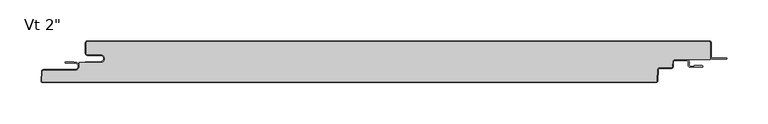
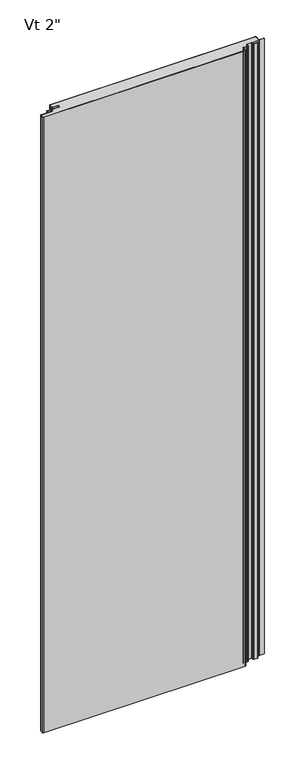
"""IFC4 building model written with IfcOpenShell, lengths in millimetres: plate geometry."""

from ifc_helpers import new_model, si_unit, point, frame, frame_2d, origin, origin_with_axes, place, context, project, spatial, polyline, circle_curve, ellipse_curve, trimmed, segment, composite_curve, outline, extrude, source, transform, mapped, element, save
from ifc_brep_helpers import plane_surface, cylinder_surface, revolved_surface, extruded_surface, advanced_brep


def plate_176f2685(model_context):
    return source(origin(), model_context, "Body", "SolidModel", [
        extrude(outline(composite_curve([segment(trimmed(circle_curve(frame_2d((335.9683457, -25.4)), 2.5875), [point((335.9683457, -22.8125))], [point((333.3843918, -25.2645807))], True, "CARTESIAN"), True, "CONTINUOUS"), segment(polyline([(333.3843918, -25.2645807), (333.0823155, -31.028539)]), True, "CONTINUOUS"), segment(trimmed(circle_curve(frame_2d((331.7029585, -30.95625)), 1.38125), [point((333.0823155, -31.028539))], [point((331.7029585, -32.3375))], False, "CARTESIAN"), True, "CONTINUOUS"), segment(polyline([(331.7029585, -32.3375), (317.5323847, -32.3375)]), True, "CONTINUOUS"), segment(trimmed(circle_curve(frame_2d((317.5323847, -34.925)), 2.5875), [point((317.5323847, -32.3375))], [point((314.9484307, -34.7895807))], True, "CARTESIAN"), True, "CONTINUOUS"), segment(polyline([(314.9484307, -34.7895807), (314.2303677, -48.491039)]), True, "CONTINUOUS"), segment(trimmed(circle_curve(frame_2d((312.8510107, -48.41875)), 1.38125), [point((314.2303677, -48.491039))], [point((312.8510107, -49.8))], False, "CARTESIAN"), True, "CONTINUOUS"), segment(polyline([(312.8510107, -49.8), (-431.6656861, -49.8)]), True, "CONTINUOUS"), segment(trimmed(circle_curve(frame_2d((-431.6656861, -48.41875)), 1.38125), [point((-431.6656861, -49.8))], [point((-433.0450431, -48.346461))], False, "CARTESIAN"), True, "CONTINUOUS"), segment(polyline([(-433.0450431, -48.346461), (-432.4626617, -37.233961)]), True, "CONTINUOUS"), segment(trimmed(circle_curve(frame_2d((-431.0833046, -37.30625)), 1.38125), [point((-432.4626617, -37.233961))], [point((-431.0833046, -35.925))], False, "CARTESIAN"), True, "CONTINUOUS"), segment(polyline([(-431.0833046, -35.925), (-392.9, -35.925)]), True, "CONTINUOUS"), segment(trimmed(circle_curve(frame_2d((-392.9, -30.95625)), 4.96875), [point((-392.9, -35.925))], [point((-387.93125, -30.95625))], True, "CARTESIAN"), True, "CONTINUOUS"), segment(polyline([(-387.93125, -30.95625), (-387.93125, -26.4), (-361.94375, -26.4)]), True, "CONTINUOUS"), segment(trimmed(circle_curve(frame_2d((-361.94375, -21.43125)), 4.96875), [point((-361.94375, -26.4))], [point((-361.94375, -16.4625))], True, "CARTESIAN"), True, "CONTINUOUS"), segment(polyline([(-361.94375, -16.4625), (-377.81875, -16.4625)]), True, "CONTINUOUS"), segment(trimmed(circle_curve(frame_2d((-377.81875, -15.08125)), 1.38125), [point((-377.81875, -16.4625))], [point((-379.2, -15.08125))], False, "CARTESIAN"), True, "CONTINUOUS"), segment(polyline([(-379.2, -15.08125), (-379.2, -2.38125)]), True, "CONTINUOUS"), segment(trimmed(circle_curve(frame_2d((-377.81875, -2.38125)), 1.38125), [point((-379.2, -2.38125))], [point((-377.81875, -1.0))], False, "CARTESIAN"), True, "CONTINUOUS"), segment(polyline([(-377.81875, -1.0), (377.83125, -1.0)]), True, "CONTINUOUS"), segment(trimmed(circle_curve(frame_2d((377.83125, -2.38125)), 1.38125), [point((377.83125, -1.0))], [point((379.2125, -2.38125))], False, "CARTESIAN"), True, "CONTINUOUS"), segment(polyline([(379.2125, -2.38125), (379.2125, -22.8125), (335.9683457, -22.8125)]), True, "CONTINUOUS")], self_intersect=False)), origin_with_axes(), (0.0, 0.0, 1.0), 2400.0),
        extrude(outline(composite_curve([segment(polyline([(-380.2, -25.4), (-361.94375, -25.4)]), True, "CONTINUOUS"), segment(trimmed(circle_curve(frame_2d((-361.94375, -21.43125)), 3.96875), [point((-361.94375, -25.4))], [point((-361.94375, -17.4625))], True, "CARTESIAN"), True, "CONTINUOUS"), segment(polyline([(-361.94375, -17.4625), (-377.81875, -17.4625)]), True, "CONTINUOUS"), segment(trimmed(circle_curve(frame_2d((-377.81875, -15.08125)), 2.38125), [point((-377.81875, -17.4625))], [point((-380.2, -15.08125))], False, "CARTESIAN"), True, "CONTINUOUS"), segment(polyline([(-380.2, -15.08125), (-380.2, -2.38125)]), True, "CONTINUOUS"), segment(trimmed(circle_curve(frame_2d((-377.81875, -2.38125)), 2.38125), [point((-380.2, -2.38125))], [point((-377.81875, 0.0))], False, "CARTESIAN"), True, "CONTINUOUS"), segment(polyline([(-377.81875, 0.0), (377.83125, 0.0)]), True, "CONTINUOUS"), segment(trimmed(circle_curve(frame_2d((377.83125, -2.38125)), 2.38125), [point((377.83125, 0.0))], [point((380.2125, -2.38125))], False, "CARTESIAN"), True, "CONTINUOUS"), segment(polyline([(380.2125, -2.38125), (380.2125, -19.446875)]), True, "CONTINUOUS"), segment(trimmed(circle_curve(frame_2d((381.8, -19.446875)), 1.5875), [point((380.2125, -19.446875))], [point((381.8, -21.034375))], True, "CARTESIAN"), True, "CONTINUOUS"), segment(polyline([(381.8, -21.034375), (399.2625, -21.034375), (399.2625, -22.034375), (381.8, -22.034375)]), True, "CONTINUOUS"), segment(trimmed(circle_curve(frame_2d((381.8, -19.446875)), 2.5875), [point((381.8, -22.034375))], [point((379.2125, -19.446875))], False, "CARTESIAN"), True, "CONTINUOUS"), segment(polyline([(379.2125, -19.446875), (379.2125, -2.38125)]), True, "CONTINUOUS"), segment(trimmed(circle_curve(frame_2d((377.83125, -2.38125)), 1.38125), [point((379.2125, -2.38125))], [point((377.83125, -1.0))], True, "CARTESIAN"), True, "CONTINUOUS"), segment(polyline([(377.83125, -1.0), (-377.81875, -1.0)]), True, "CONTINUOUS"), segment(trimmed(circle_curve(frame_2d((-377.81875, -2.38125)), 1.38125), [point((-377.81875, -1.0))], [point((-379.2, -2.38125))], True, "CARTESIAN"), True, "CONTINUOUS"), segment(polyline([(-379.2, -2.38125), (-379.2, -15.08125)]), True, "CONTINUOUS"), segment(trimmed(circle_curve(frame_2d((-377.81875, -15.08125)), 1.38125), [point((-379.2, -15.08125))], [point((-377.81875, -16.4625))], True, "CARTESIAN"), True, "CONTINUOUS"), segment(polyline([(-377.81875, -16.4625), (-361.94375, -16.4625)]), True, "CONTINUOUS"), segment(trimmed(circle_curve(frame_2d((-361.94375, -21.43125)), 4.96875), [point((-361.94375, -16.4625))], [point((-361.94375, -26.4))], False, "CARTESIAN"), True, "CONTINUOUS"), segment(polyline([(-361.94375, -26.4), (-380.2, -26.4), (-380.2, -25.4)]), True, "CONTINUOUS")], self_intersect=False)), origin_with_axes(), (0.0, 0.0, 1.0), 2400.0),
        advanced_brep(
        [(-404.2252049, -25.4, 2400.0), (-404.2252049, -26.9875, 2400.0), (-392.9142674, -26.9875, 2400.0), (-392.9142674, -34.925, 2400.0), (-431.0975721, -34.925, 2400.0), (-433.4755586, -37.181625, 2400.0), (-434.0579401, -48.294125, 2400.0), (-431.6799535, -50.8, 2400.0), (312.8510107, -50.8, 2400.0), (315.2289973, -48.543375, 2400.0), (315.9470603, -34.8419167, 2400.0), (317.5323847, -33.3375, 2400.0), (331.6886911, -33.3375, 2400.0), (334.0666776, -31.080875, 2400.0), (334.3687539, -25.3169167, 2400.0), (335.9540783, -23.8125, 2400.0), (350.8294826, -23.8125, 2400.0), (352.4169826, -25.4, 2400.0), (352.4169826, -29.5671875, 2400.0), (354.7982326, -31.9484375, 2400.0), (369.2898532, -31.9484375, 2400.0), (369.2898532, -30.1546875, 2400.0), (359.5607326, -30.1546875, 2400.0), (359.5607326, -30.9484375, 2400.0), (354.7982326, -30.9484375, 2400.0), (353.4169826, -29.5671875, 2400.0), (353.4169826, -25.4, 2400.0), (350.8294826, -22.8125, 2400.0), (335.9540783, -22.8125, 2400.0), (333.3701244, -25.2645807, 2400.0), (333.0680481, -31.028539, 2400.0), (331.6886911, -32.3375, 2400.0), (317.5323847, -32.3375, 2400.0), (314.9484307, -34.7895807, 2400.0), (314.2303677, -48.491039, 2400.0), (312.8510107, -49.8, 2400.0), (-431.6799535, -49.8, 2400.0), (-433.0593106, -48.346461, 2400.0), (-432.4769291, -37.233961, 2400.0), (-431.0975721, -35.925, 2400.0), (-392.9142674, -35.925, 2400.0), (-392.9142674, -25.9875, 2400.0), (-394.5017674, -26.19375, 2400.0), (-394.5017674, -25.4, 2400.0), (-404.2252049, -25.4, 0.0), (-394.5017674, -25.4, 0.0), (-394.5017674, -26.19375, 0.0), (-392.9142674, -25.9875, 0.0), (-392.9142674, -35.925, 0.0), (-431.0975721, -35.925, 0.0), (-432.4769291, -37.233961, 0.0), (-433.0593106, -48.346461, 0.0), (-431.6799535, -49.8, 0.0), (312.8510107, -49.8, 0.0), (314.2303677, -48.491039, 0.0), (314.9484307, -34.7895807, 0.0), (317.5323847, -32.3375, 0.0), (331.6886911, -32.3375, 0.0), (333.0680481, -31.028539, 0.0), (333.3701244, -25.2645807, 0.0), (335.9540783, -22.8125, 0.0), (350.8294826, -22.8125, 0.0), (353.4169826, -25.4, 0.0), (353.4169826, -29.5671875, 0.0), (354.7982326, -30.9484375, 0.0), (359.5607326, -30.9484375, 0.0), (359.5607326, -30.1546875, 0.0), (369.2898532, -30.1546875, 0.0), (369.2898532, -31.9484375, 0.0), (354.7982326, -31.9484375, 0.0), (352.4169826, -29.5671875, 0.0), (352.4169826, -25.4, 0.0), (350.8294826, -23.8125, 0.0), (335.9540783, -23.8125, 0.0), (334.3687539, -25.3169167, 0.0), (334.0666776, -31.080875, 0.0), (331.6886911, -33.3375, 0.0), (317.5323847, -33.3375, 0.0), (315.9470603, -34.8419167, 0.0), (315.2289973, -48.543375, 0.0), (312.8510107, -50.8, 0.0), (-431.6799535, -50.8, 0.0), (-434.0579401, -48.294125, 0.0), (-433.4755586, -37.181625, 0.0), (-431.0975721, -34.925, 0.0), (-392.9142674, -34.925, 0.0), (-392.9142674, -26.9875, 0.0), (-404.2252049, -26.9875, 0.0)],
        [
            (0, 1, circle_curve(frame((-404.2252049, -26.19375, 2400.0), z_axis=(0.0, 0.0, 1.0), x_axis=(1.0, 0.0, 0.0)), 0.79375)),
            (1, 2),
            (2, 3, circle_curve(frame((-392.9142674, -30.95625, 2400.0), z_axis=(0.0, 0.0, -1.0), x_axis=(1.0, 0.0, 0.0)), 3.96875)),
            (3, 4),
            (4, 5, circle_curve(frame((-431.0975721, -37.30625, 2400.0), z_axis=(0.0, 0.0, 1.0), x_axis=(1.0, 0.0, 0.0)), 2.38125)),
            (5, 6),
            (6, 7, circle_curve(frame((-431.6799535, -48.41875, 2400.0), z_axis=(0.0, 0.0, 1.0), x_axis=(1.0, 0.0, 0.0)), 2.38125)),
            (7, 8),
            (8, 9, circle_curve(frame((312.8510107, -48.41875, 2400.0), z_axis=(0.0, 0.0, 1.0), x_axis=(1.0, 0.0, 0.0)), 2.38125)),
            (9, 10),
            (10, 11, circle_curve(frame((317.5323847, -34.925, 2400.0), z_axis=(0.0, 0.0, -1.0), x_axis=(1.0, 0.0, 0.0)), 1.5875)),
            (11, 12),
            (12, 13, circle_curve(frame((331.6886911, -30.95625, 2400.0), z_axis=(0.0, 0.0, 1.0), x_axis=(1.0, 0.0, 0.0)), 2.38125)),
            (13, 14),
            (14, 15, circle_curve(frame((335.9540783, -25.4, 2400.0), z_axis=(0.0, 0.0, -1.0), x_axis=(1.0, 0.0, 0.0)), 1.5875)),
            (15, 16),
            (16, 17, circle_curve(frame((350.8294826, -25.4, 2400.0), z_axis=(0.0, 0.0, -1.0), x_axis=(1.0, 0.0, 0.0)), 1.5875)),
            (17, 18),
            (18, 19, circle_curve(frame((354.7982326, -29.5671875, 2400.0), z_axis=(0.0, 0.0, 1.0), x_axis=(1.0, 0.0, 0.0)), 2.38125)),
            (19, 20),
            (20, 21, ellipse_curve(frame((369.2898532, -31.0515625, 2400.0), z_axis=(0.0, 0.0, 1.0), x_axis=(0.0, 1.0, 0.0)), 0.896875, 0.7852275)),
            (21, 22),
            (22, 23),
            (23, 24),
            (24, 25, circle_curve(frame((354.7982326, -29.5671875, 2400.0), z_axis=(0.0, 0.0, -1.0), x_axis=(1.0, 0.0, 0.0)), 1.38125)),
            (25, 26),
            (26, 27, circle_curve(frame((350.8294826, -25.4, 2400.0), z_axis=(0.0, 0.0, 1.0), x_axis=(1.0, 0.0, 0.0)), 2.5875)),
            (27, 28),
            (28, 29, circle_curve(frame((335.9540783, -25.4, 2400.0), z_axis=(0.0, 0.0, 1.0), x_axis=(1.0, 0.0, 0.0)), 2.5875)),
            (29, 30),
            (30, 31, circle_curve(frame((331.6886911, -30.95625, 2400.0), z_axis=(0.0, 0.0, -1.0), x_axis=(1.0, 0.0, 0.0)), 1.38125)),
            (31, 32),
            (32, 33, circle_curve(frame((317.5323847, -34.925, 2400.0), z_axis=(0.0, 0.0, 1.0), x_axis=(1.0, 0.0, 0.0)), 2.5875)),
            (33, 34),
            (34, 35, circle_curve(frame((312.8510107, -48.41875, 2400.0), z_axis=(0.0, 0.0, -1.0), x_axis=(1.0, 0.0, 0.0)), 1.38125)),
            (35, 36),
            (36, 37, circle_curve(frame((-431.6799535, -48.41875, 2400.0), z_axis=(0.0, 0.0, -1.0), x_axis=(1.0, 0.0, 0.0)), 1.38125)),
            (37, 38),
            (38, 39, circle_curve(frame((-431.0975721, -37.30625, 2400.0), z_axis=(0.0, 0.0, -1.0), x_axis=(1.0, 0.0, 0.0)), 1.38125)),
            (39, 40),
            (40, 41, circle_curve(frame((-392.9142674, -30.95625, 2400.0), z_axis=(0.0, 0.0, 1.0), x_axis=(1.0, 0.0, 0.0)), 4.96875)),
            (41, 42),
            (42, 43),
            (43, 0),
            (44, 45),
            (45, 46),
            (46, 47),
            (47, 48, circle_curve(frame((-392.9142674, -30.95625, 0.0), z_axis=(0.0, 0.0, -1.0), x_axis=(1.0, 0.0, 0.0)), 4.96875)),
            (48, 49),
            (49, 50, circle_curve(frame((-431.0975721, -37.30625, 0.0), z_axis=(0.0, 0.0, 1.0), x_axis=(1.0, 0.0, 0.0)), 1.38125)),
            (50, 51),
            (51, 52, circle_curve(frame((-431.6799535, -48.41875, 0.0), z_axis=(0.0, 0.0, 1.0), x_axis=(1.0, 0.0, 0.0)), 1.38125)),
            (52, 53),
            (53, 54, circle_curve(frame((312.8510107, -48.41875, 0.0), z_axis=(0.0, 0.0, 1.0), x_axis=(1.0, 0.0, 0.0)), 1.38125)),
            (54, 55),
            (55, 56, circle_curve(frame((317.5323847, -34.925, 0.0), z_axis=(0.0, 0.0, -1.0), x_axis=(1.0, 0.0, 0.0)), 2.5875)),
            (56, 57),
            (57, 58, circle_curve(frame((331.6886911, -30.95625, 0.0), z_axis=(0.0, 0.0, 1.0), x_axis=(1.0, 0.0, 0.0)), 1.38125)),
            (58, 59),
            (59, 60, circle_curve(frame((335.9540783, -25.4, 0.0), z_axis=(0.0, 0.0, -1.0), x_axis=(1.0, 0.0, 0.0)), 2.5875)),
            (60, 61),
            (61, 62, circle_curve(frame((350.8294826, -25.4, 0.0), z_axis=(0.0, 0.0, -1.0), x_axis=(1.0, 0.0, 0.0)), 2.5875)),
            (62, 63),
            (63, 64, circle_curve(frame((354.7982326, -29.5671875, 0.0), z_axis=(0.0, 0.0, 1.0), x_axis=(1.0, 0.0, 0.0)), 1.38125)),
            (64, 65),
            (65, 66),
            (66, 67),
            (67, 68, ellipse_curve(frame((369.2898532, -31.0515625, 0.0), z_axis=(0.0, 0.0, -1.0), x_axis=(0.0, 1.0, 0.0)), 0.896875, 0.7852275)),
            (68, 69),
            (69, 70, circle_curve(frame((354.7982326, -29.5671875, 0.0), z_axis=(0.0, 0.0, -1.0), x_axis=(1.0, 0.0, 0.0)), 2.38125)),
            (70, 71),
            (71, 72, circle_curve(frame((350.8294826, -25.4, 0.0), z_axis=(0.0, 0.0, 1.0), x_axis=(1.0, 0.0, 0.0)), 1.5875)),
            (72, 73),
            (73, 74, circle_curve(frame((335.9540783, -25.4, 0.0), z_axis=(0.0, 0.0, 1.0), x_axis=(1.0, 0.0, 0.0)), 1.5875)),
            (74, 75),
            (75, 76, circle_curve(frame((331.6886911, -30.95625, 0.0), z_axis=(0.0, 0.0, -1.0), x_axis=(1.0, 0.0, 0.0)), 2.38125)),
            (76, 77),
            (77, 78, circle_curve(frame((317.5323847, -34.925, 0.0), z_axis=(0.0, 0.0, 1.0), x_axis=(1.0, 0.0, 0.0)), 1.5875)),
            (78, 79),
            (79, 80, circle_curve(frame((312.8510107, -48.41875, 0.0), z_axis=(0.0, 0.0, -1.0), x_axis=(1.0, 0.0, 0.0)), 2.38125)),
            (80, 81),
            (81, 82, circle_curve(frame((-431.6799535, -48.41875, 0.0), z_axis=(0.0, 0.0, -1.0), x_axis=(1.0, 0.0, 0.0)), 2.38125)),
            (82, 83),
            (83, 84, circle_curve(frame((-431.0975721, -37.30625, 0.0), z_axis=(0.0, 0.0, -1.0), x_axis=(1.0, 0.0, 0.0)), 2.38125)),
            (84, 85),
            (85, 86, circle_curve(frame((-392.9142674, -30.95625, 0.0), z_axis=(0.0, 0.0, 1.0), x_axis=(1.0, 0.0, 0.0)), 3.96875)),
            (86, 87),
            (87, 44, circle_curve(frame((-404.2252049, -26.19375, 0.0), z_axis=(0.0, 0.0, -1.0), x_axis=(1.0, 0.0, 0.0)), 0.79375)),
            (43, 45),
            (44, 0),
            (87, 1),
            (86, 2),
            (85, 3),
            (84, 4),
            (83, 5),
            (82, 6),
            (81, 7),
            (80, 8),
            (79, 9),
            (78, 10),
            (77, 11),
            (76, 12),
            (75, 13),
            (74, 14),
            (73, 15),
            (38, 50),
            (49, 39),
            (33, 55),
            (54, 34),
            (32, 56),
            (31, 57),
            (30, 58),
            (29, 59),
            (28, 60),
            (23, 65),
            (64, 24),
            (63, 25),
            (62, 26),
            (72, 16),
            (71, 17),
            (70, 18),
            (69, 19),
            (68, 20),
            (27, 61),
            (48, 40),
            (47, 41),
            (42, 46),
            (22, 66),
            (21, 67),
            (37, 51),
            (36, 52),
            (35, 53),
        ],
        [
            plane_surface(frame((0.00625, -50.8, 2400.0), z_axis=(0.0, 0.0, 1.0), x_axis=(0.0, -1.0, 0.0))),
            plane_surface(frame((0.00625, -50.8, 0.0), z_axis=(0.0, 0.0, -1.0), x_axis=(0.0, -1.0, 0.0))),
            plane_surface(frame((-404.2252049, -25.4, 2400.0), z_axis=(0.0, 1.0, 0.0), x_axis=(0.0, 0.0, -1.0))),
            cylinder_surface(frame((-404.2252049, -26.19375, 2400.0), z_axis=(0.0, 0.0, 1.0), x_axis=(1.0, 0.0, 0.0)), 0.79375),
            plane_surface(frame((-392.9142674, -26.9875, 2400.0), z_axis=(0.0, -1.0, 0.0), x_axis=(0.0, 0.0, -1.0))),
            revolved_surface(polyline([(-388.9455174, -30.95625, 0.0), (-388.9455174, -30.95625, 2400.0)]), (-392.9142674, -30.95625, 2400.0), (0.0, 0.0, -1.0)),
            plane_surface(frame((-431.0975721, -34.925, 2400.0), z_axis=(0.0, 1.0, 0.0), x_axis=(0.0, 0.0, -1.0))),
            cylinder_surface(frame((-431.0975721, -37.30625, 2400.0), z_axis=(0.0, 0.0, 1.0), x_axis=(1.0, 0.0, 0.0)), 2.38125),
            plane_surface(frame((-434.0579401, -48.294125, 2400.0), z_axis=(-0.9986295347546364, 0.05233595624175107, 0.0), x_axis=(0.0, 0.0, -1.0))),
            cylinder_surface(frame((-431.6799535, -48.41875, 2400.0), z_axis=(0.0, 0.0, 1.0), x_axis=(1.0, 0.0, 0.0)), 2.38125),
            plane_surface(frame((312.8510107, -50.8, 2400.0), z_axis=(0.0, -1.0, 0.0), x_axis=(0.0, 0.0, -1.0))),
            cylinder_surface(frame((312.8510107, -48.41875, 2400.0), z_axis=(0.0, 0.0, 1.0), x_axis=(1.0, 0.0, 0.0)), 2.38125),
            plane_surface(frame((315.9470603, -34.8419167, 2400.0), z_axis=(0.9986295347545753, -0.05233595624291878, 0.0), x_axis=(0.0, 0.0, -1.0))),
            revolved_surface(polyline([(319.1198847, -34.925, 0.0), (319.1198847, -34.925, 2400.0)]), (317.5323847, -34.925, 2400.0), (0.0, 0.0, -1.0)),
            plane_surface(frame((331.6886911, -33.3375, 2400.0), z_axis=(0.0, -1.0, 0.0), x_axis=(0.0, 0.0, -1.0))),
            cylinder_surface(frame((331.6886911, -30.95625, 2400.0), z_axis=(0.0, 0.0, 1.0), x_axis=(1.0, 0.0, 0.0)), 2.38125),
            plane_surface(frame((334.3687539, -25.3169167, 2400.0), z_axis=(0.9986295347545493, -0.052335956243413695, 0.0), x_axis=(0.0, 0.0, -1.0))),
            revolved_surface(polyline([(337.54157829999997, -25.4, 0.0), (337.54157829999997, -25.4, 2400.0)]), (335.9540783, -25.4, 2400.0), (0.0, 0.0, -1.0)),
            revolved_surface(polyline([(-429.71632209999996, -37.30625, 0.0), (-429.71632209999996, -37.30625, 2400.0)]), (-431.0975721, -37.30625, 2400.0), (0.0, 0.0, -1.0)),
            plane_surface(frame((314.2303677, -48.491039, 2400.0), z_axis=(-0.9986295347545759, 0.052335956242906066, 0.0), x_axis=(0.0, 0.0, -1.0))),
            cylinder_surface(frame((317.5323847, -34.925, 2400.0), z_axis=(0.0, 0.0, 1.0), x_axis=(1.0, 0.0, 0.0)), 2.5875),
            plane_surface(frame((317.5323847, -32.3375, 2400.0), z_axis=(0.0, 1.0, 0.0), x_axis=(0.0, 0.0, -1.0))),
            revolved_surface(polyline([(333.06994110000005, -30.95625, 0.0), (333.06994110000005, -30.95625, 2400.0)]), (331.6886911, -30.95625, 2400.0), (0.0, 0.0, -1.0)),
            plane_surface(frame((333.0680481, -31.028539, 2400.0), z_axis=(-0.998629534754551, 0.05233595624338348, 0.0), x_axis=(0.0, 0.0, -1.0))),
            cylinder_surface(frame((335.9540783, -25.4, 2400.0), z_axis=(0.0, 0.0, 1.0), x_axis=(1.0, 0.0, 0.0)), 2.5875),
            plane_surface(frame((354.7982326, -30.9484375, 2400.0), z_axis=(0.0, 1.0, 0.0), x_axis=(0.0, 0.0, -1.0))),
            revolved_surface(polyline([(356.17948260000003, -29.5671875, 0.0), (356.17948260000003, -29.5671875, 2400.0)]), (354.7982326, -29.5671875, 2400.0), (0.0, 0.0, -1.0)),
            plane_surface(frame((353.4169826, -25.4, 2400.0), z_axis=(1.0, 0.0, 0.0), x_axis=(0.0, 0.0, -1.0))),
            plane_surface(frame((350.8294826, -23.8125, 2400.0), z_axis=(0.0, -1.0, 0.0), x_axis=(0.0, 0.0, -1.0))),
            revolved_surface(polyline([(352.4169826, -25.4, 0.0), (352.4169826, -25.4, 2400.0)]), (350.8294826, -25.4, 2400.0), (0.0, 0.0, -1.0)),
            plane_surface(frame((352.4169826, -29.5671875, 2400.0), z_axis=(-1.0, 0.0, 0.0), x_axis=(0.0, 0.0, -1.0))),
            cylinder_surface(frame((354.7982326, -29.5671875, 2400.0), z_axis=(0.0, 0.0, 1.0), x_axis=(1.0, 0.0, 0.0)), 2.38125),
            plane_surface(frame((369.2898532, -31.9484375, 2400.0), z_axis=(0.0, -1.0, 0.0), x_axis=(0.0, 0.0, -1.0))),
            plane_surface(frame((335.9540783, -22.8125, 2400.0), z_axis=(0.0, 1.0, 0.0), x_axis=(0.0, 0.0, -1.0))),
            cylinder_surface(frame((350.8294826, -25.4, 2400.0), z_axis=(0.0, 0.0, 1.0), x_axis=(1.0, 0.0, 0.0)), 2.5875),
            plane_surface(frame((-392.9142674, -35.925, 2400.0), z_axis=(0.0, -1.0, 0.0), x_axis=(0.0, 0.0, -1.0))),
            cylinder_surface(frame((-392.9142674, -30.95625, 2400.0), z_axis=(0.0, 0.0, 1.0), x_axis=(1.0, 0.0, 0.0)), 4.96875),
            plane_surface(frame((-394.5017674, -25.4, 2400.0), z_axis=(1.0, 0.0, 0.0), x_axis=(0.0, 0.0, -1.0))),
            plane_surface(frame((-394.5017674, -26.19375, 2400.0), z_axis=(-0.12883844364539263, 0.9916655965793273, 0.0), x_axis=(0.0, 0.0, -1.0))),
            plane_surface(frame((359.5607326, -30.9484375, 2400.0), z_axis=(-1.0, 0.0, 0.0), x_axis=(0.0, 0.0, -1.0))),
            plane_surface(frame((359.5607326, -30.1546875, 2400.0), z_axis=(0.0, 1.0, 0.0), x_axis=(0.0, 0.0, -1.0))),
            extruded_surface(trimmed(ellipse_curve(frame((369.2898532, -31.0515625, 2400.0), z_axis=(0.0, 0.0, -1.0), x_axis=(0.0, 1.0, 0.0)), 0.896875, 0.7852275), [point((369.2898532, -30.1546875, 2400.0))], [point((369.2898532, -31.9484375, 2400.0))], True, "CARTESIAN"), (0.0, 0.0, -2400.0), 2400.0),
            plane_surface(frame((-432.4769291, -37.233961, 2400.0), z_axis=(0.9986295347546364, -0.05233595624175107, 0.0), x_axis=(0.0, 0.0, -1.0))),
            revolved_surface(polyline([(-430.2987035, -48.41875, 0.0), (-430.2987035, -48.41875, 2400.0)]), (-431.6799535, -48.41875, 2400.0), (0.0, 0.0, -1.0)),
            plane_surface(frame((-431.6799535, -49.8, 2400.0), z_axis=(0.0, 1.0, 0.0), x_axis=(0.0, 0.0, -1.0))),
            revolved_surface(polyline([(314.23226070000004, -48.41875, 0.0), (314.23226070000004, -48.41875, 2400.0)]), (312.8510107, -48.41875, 2400.0), (0.0, 0.0, -1.0)),
        ],
        [
            (0, [[1, 2, 3, 4, 5, 6, 7, 8, 9, 10, 11, 12, 13, 14, 15, 16, 17, 18, 19, 20, 21, 22, 23, 24, 25, 26, 27, 28, 29, 30, 31, 32, 33, 34, 35, 36, 37, 38, 39, 40, 41, 42, 43, 44]]),
            (1, [[45, 46, 47, 48, 49, 50, 51, 52, 53, 54, 55, 56, 57, 58, 59, 60, 61, 62, 63, 64, 65, 66, 67, 68, 69, 70, 71, 72, 73, 74, 75, 76, 77, 78, 79, 80, 81, 82, 83, 84, 85, 86, 87, 88]]),
            (2, [[89, -45, 90, -44]]),
            (3, [[-90, -88, 91, -1]]),
            (4, [[-91, -87, 92, -2]]),
            (5, [[-92, -86, 93, -3]]),
            (6, [[-93, -85, 94, -4]]),
            (7, [[-94, -84, 95, -5]]),
            (8, [[-95, -83, 96, -6]]),
            (9, [[-96, -82, 97, -7]]),
            (10, [[-97, -81, 98, -8]]),
            (11, [[-98, -80, 99, -9]]),
            (12, [[-99, -79, 100, -10]]),
            (13, [[-100, -78, 101, -11]]),
            (14, [[-101, -77, 102, -12]]),
            (15, [[-102, -76, 103, -13]]),
            (16, [[-103, -75, 104, -14]]),
            (17, [[-104, -74, 105, -15]]),
            (18, [[106, -50, 107, -39]]),
            (19, [[108, -55, 109, -34]]),
            (20, [[110, -56, -108, -33]]),
            (21, [[111, -57, -110, -32]]),
            (22, [[112, -58, -111, -31]]),
            (23, [[113, -59, -112, -30]]),
            (24, [[114, -60, -113, -29]]),
            (25, [[115, -65, 116, -24]]),
            (26, [[-116, -64, 117, -25]]),
            (27, [[-117, -63, 118, -26]]),
            (28, [[-105, -73, 119, -16]]),
            (29, [[-119, -72, 120, -17]]),
            (30, [[-120, -71, 121, -18]]),
            (31, [[-121, -70, 122, -19]]),
            (32, [[-122, -69, 123, -20]]),
            (33, [[124, -61, -114, -28]]),
            (34, [[-118, -62, -124, -27]]),
            (35, [[-107, -49, 125, -40]]),
            (36, [[-125, -48, 126, -41]]),
            (37, [[127, -46, -89, -43]]),
            (38, [[-126, -47, -127, -42]]),
            (39, [[128, -66, -115, -23]]),
            (40, [[129, -67, -128, -22]]),
            (41, [[-123, -68, -129, -21]]),
            (42, [[130, -51, -106, -38]]),
            (43, [[131, -52, -130, -37]]),
            (44, [[132, -53, -131, -36]]),
            (45, [[-109, -54, -132, -35]]),
        ],
    ),
    ])


if __name__ == "__main__":
    model = new_model("IFC4")
    model_context = context("Model", 3, world=origin())
    ifc_project = project(units=[si_unit("LENGTHUNIT", "METRE", prefix="MILLI")], contexts=[model_context])
    site = spatial("IfcSite", under=ifc_project)
    building = spatial("IfcBuilding", under=site)
    placement = place(None, origin())
    plate_shape = plate_176f2685(model_context)
    element("IfcPlate", 1, ObjectType="KIP-30-DWHR-R19-CP-Vt-F : Vt 2\"", at=placement, inside=building, context=model_context, shape_type="MappedRepresentation", body=[
        mapped(plate_shape, transform((0.0, 0.0, 0.0), x_axis=(1.0, 0.0, 0.0), y_axis=(0.0, 1.0, 0.0), z_axis=(0.0, 0.0, 1.0))),
    ])
    save(model, "model.ifc")
